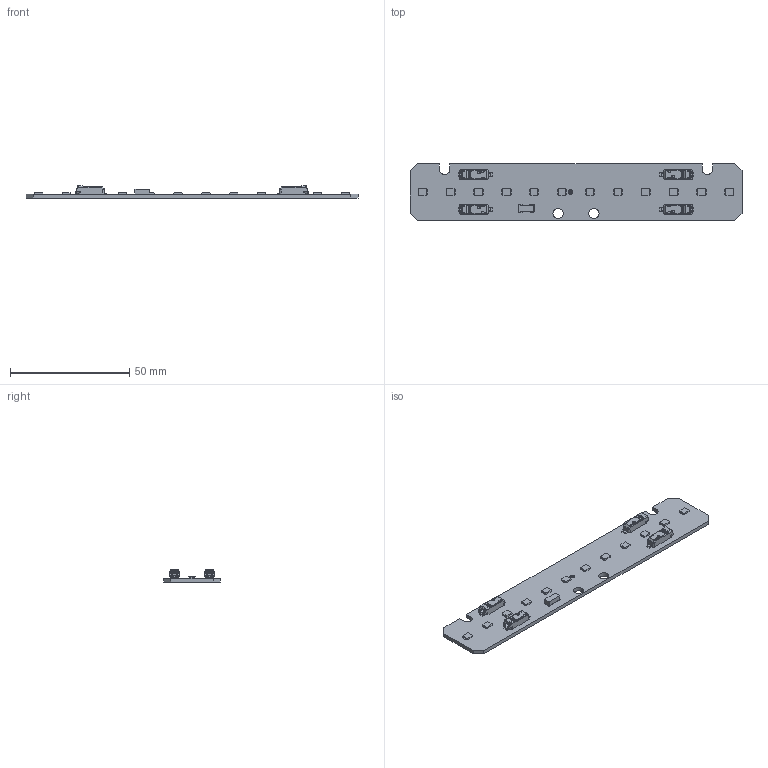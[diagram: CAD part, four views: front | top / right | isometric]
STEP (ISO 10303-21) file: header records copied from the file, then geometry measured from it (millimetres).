
FILE_DESCRIPTION((''),'2;1');
FILE_NAME('16212219_LLE-G6-24X140-650-LV','2023-01-30T14:18:52',('Bernhard.Fink'),(''),'CREO PARAMETRIC BY PTC INC, 2021184','CREO PARAMETRIC BY PTC INC, 2021184','');
FILE_SCHEMA(('CONFIG_CONTROL_DESIGN'));
Products named in the file (1): 16212219_LLE-G6-24X140-650-LV
Bounding box: 139 x 23.6 x 5.1 mm (x, y, z)
Volume: 5381.1 mm3; surface area: 8104.2 mm2
Topology: 1 solids, 23 shells, 1576 faces, 4518 edges, 2948 vertices
Faces by surface type: plane 820, cylinder 404, bspline 204, cone 68, torus 40, sphere 40
Entity records: 118654 total; most frequent: CARTESIAN_POINT 80826, ORIENTED_EDGE 8436, DIRECTION 6532, EDGE_CURVE 4502, VERTEX_POINT 2944, VECTOR 2738, LINE 2738, AXIS2_PLACEMENT_3D 1897
